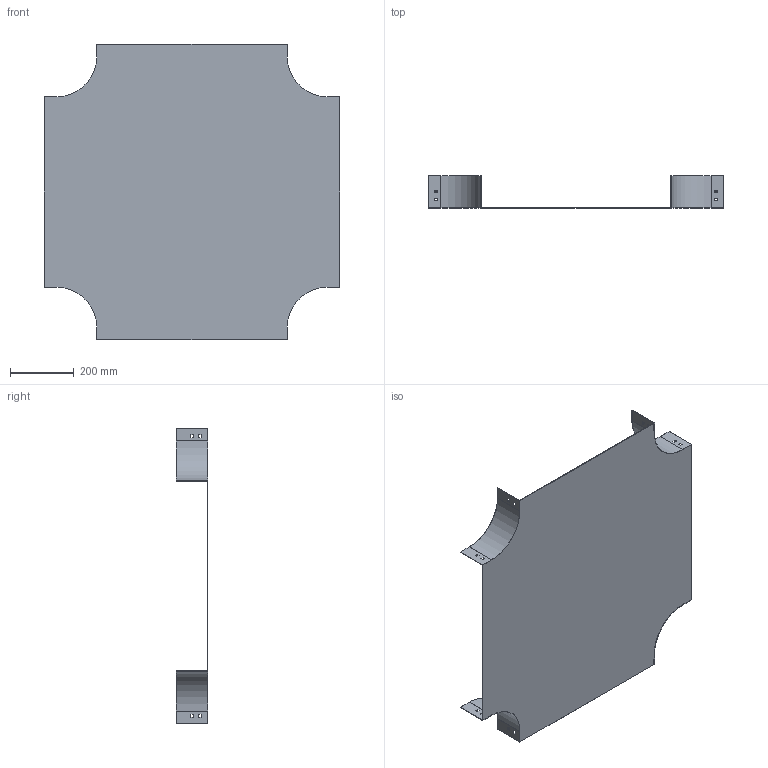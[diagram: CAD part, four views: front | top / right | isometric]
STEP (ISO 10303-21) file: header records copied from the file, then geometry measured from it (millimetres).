
FILE_DESCRIPTION (( 'STEP AP214' ), '1' );
FILE_NAME ('PC_601.step', '2025-07-16T09:22:53', ( '' ), ( '' ), 'SwSTEP 2.0', 'SolidWorks 2023', '' );
FILE_SCHEMA (( 'AUTOMOTIVE_DESIGN' ));
Length unit declared in the file: millimetre
Products named in the file (1): PC_601
Bounding box: 930 x 100 x 930 mm (x, y, z)
Volume: 1316457.8 mm3; surface area: 1762533.1 mm2
Topology: 1 solids, 1 shells, 98 faces, 288 edges, 192 vertices
Faces by surface type: plane 90, cylinder 8
Entity records: 3295 total; most frequent: CARTESIAN_POINT 579, ORIENTED_EDGE 576, DIRECTION 502, EDGE_CURVE 288, LINE 272, VECTOR 272, VERTEX_POINT 192, EDGE_LOOP 130
